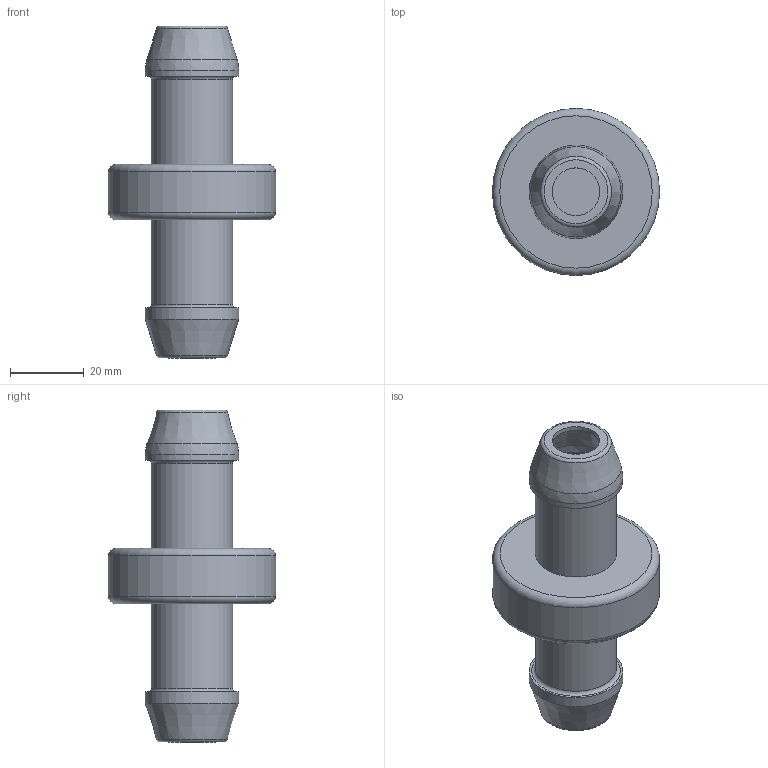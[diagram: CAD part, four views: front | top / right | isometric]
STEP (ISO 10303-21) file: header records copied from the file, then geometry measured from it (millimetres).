
FILE_DESCRIPTION(/* description */ (''),/* implementation_level */ '2;1');
FILE_NAME(/* name */ 'C:\Users\user\Documents\Inventor\Home Ventilator CPAP\Inline valve.stp',/* time_stamp */ '2020-03-29T22:39:36+02:00',/* author */ ('user'),/* organization */ (''),/* preprocessor_version */ 'ST-DEVELOPER v16.5',/* originating_system */ 'Autodesk Inventor 2017',/* authorisation */ '');
FILE_SCHEMA (('AUTOMOTIVE_DESIGN { 1 0 10303 214 3 1 1 }'));
Length unit declared in the file: millimetre
Products named in the file (1): Inline valve
Bounding box: 45.4 x 45.4 x 90.18 mm (x, y, z)
Volume: 16192.7 mm3; surface area: 25041.3 mm2
Topology: 3 solids, 3 shells, 44 faces, 76 edges, 46 vertices
Faces by surface type: cylinder 14, plane 14, torus 10, cone 4, bspline 2
Full cylindrical faces by diameter (mm): 12.93 x2, 19.718 x2, 22.118 x2, 23 x2, 25.4 x2, 41.224 x2, 43 x1, 45.4 x1
Entity records: 997 total; most frequent: CARTESIAN_POINT 195, DIRECTION 178, ORIENTED_EDGE 96, AXIS2_PLACEMENT_3D 89, EDGE_LOOP 82, EDGE_CURVE 48, CIRCLE 46, VERTEX_POINT 46
